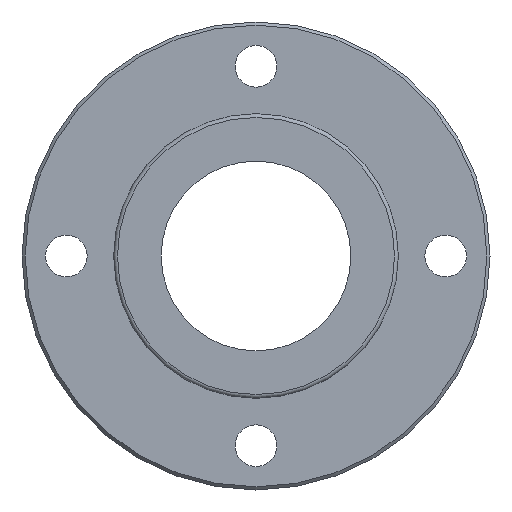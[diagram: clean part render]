
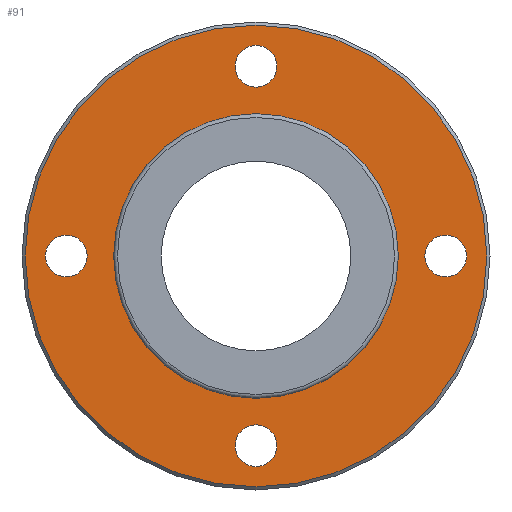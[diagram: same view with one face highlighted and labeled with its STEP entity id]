
A CAD part, left-side view. The second image highlights one B-rep face of the part: STEP entity #91.
In plain terms, the highlighted planar face has unit normal (-1, 0, 0).
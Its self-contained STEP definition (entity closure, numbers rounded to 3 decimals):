
#91=ADVANCED_FACE('',(#152,#153,#154,#155,#156,#157),#158,.T.);
#152=FACE_OUTER_BOUND('',#244,.T.);
#153=FACE_BOUND('',#245,.T.);
#154=FACE_BOUND('',#246,.T.);
#155=FACE_BOUND('',#247,.T.);
#156=FACE_BOUND('',#248,.T.);
#157=FACE_BOUND('',#249,.T.);
#158=PLANE('',#250);
#244=EDGE_LOOP('',(#368));
#245=EDGE_LOOP('',(#369));
#246=EDGE_LOOP('',(#370));
#247=EDGE_LOOP('',(#371));
#248=EDGE_LOOP('',(#372));
#249=EDGE_LOOP('',(#373));
#250=AXIS2_PLACEMENT_3D('',#374,#375,#376);
#368=ORIENTED_EDGE('',*,*,#450,.T.);
#369=ORIENTED_EDGE('',*,*,#447,.F.);
#370=ORIENTED_EDGE('',*,*,#442,.T.);
#371=ORIENTED_EDGE('',*,*,#444,.T.);
#372=ORIENTED_EDGE('',*,*,#462,.T.);
#373=ORIENTED_EDGE('',*,*,#452,.T.);
#374=CARTESIAN_POINT('',(-10.0,29.35,0.));
#375=DIRECTION('',(-1.0,0.0,0.));
#376=DIRECTION('',(0.,0.0,1.0));
#442=EDGE_CURVE('',#480,#480,#481,.T.);
#444=EDGE_CURVE('',#484,#484,#485,.T.);
#447=EDGE_CURVE('',#490,#490,#491,.T.);
#450=EDGE_CURVE('',#496,#496,#497,.T.);
#452=EDGE_CURVE('',#500,#500,#501,.T.);
#462=EDGE_CURVE('',#520,#520,#521,.T.);
#480=VERTEX_POINT('',#544);
#481=CIRCLE('',#545,3.3);
#484=VERTEX_POINT('',#548);
#485=CIRCLE('',#549,3.3);
#490=VERTEX_POINT('',#554);
#491=CIRCLE('',#555,22.2);
#496=VERTEX_POINT('',#560);
#497=CIRCLE('',#561,36.5);
#500=VERTEX_POINT('',#564);
#501=CIRCLE('',#565,3.3);
#520=VERTEX_POINT('',#584);
#521=CIRCLE('',#585,3.3);
#544=CARTESIAN_POINT('',(-10.0,-30.0,3.3));
#545=AXIS2_PLACEMENT_3D('',#614,#615,#616);
#548=CARTESIAN_POINT('',(-10.0,30.0,3.3));
#549=AXIS2_PLACEMENT_3D('',#620,#621,#622);
#554=CARTESIAN_POINT('',(-10.0,22.2,0.));
#555=AXIS2_PLACEMENT_3D('',#629,#630,#631);
#560=CARTESIAN_POINT('',(-10.0,36.5,0.));
#561=AXIS2_PLACEMENT_3D('',#638,#639,#640);
#564=CARTESIAN_POINT('',(-10.0,0.,-26.7));
#565=AXIS2_PLACEMENT_3D('',#644,#645,#646);
#584=CARTESIAN_POINT('',(-10.0,0.,33.3));
#585=AXIS2_PLACEMENT_3D('',#674,#675,#676);
#614=CARTESIAN_POINT('',(-10.0,-30.0,0.));
#615=DIRECTION('',(1.0,0.0,0.));
#616=DIRECTION('',(0.,0.0,-1.0));
#620=CARTESIAN_POINT('',(-10.0,30.0,0.));
#621=DIRECTION('',(1.0,0.0,0.));
#622=DIRECTION('',(0.,0.0,-1.0));
#629=CARTESIAN_POINT('',(-10.0,0.0,0.));
#630=DIRECTION('',(-1.0,0.0,0.));
#631=DIRECTION('',(0.0,1.0,0.0));
#638=CARTESIAN_POINT('',(-10.0,0.0,0.));
#639=DIRECTION('',(-1.0,0.0,0.));
#640=DIRECTION('',(0.0,1.0,0.0));
#644=CARTESIAN_POINT('',(-10.0,0.0,-30.0));
#645=DIRECTION('',(1.0,0.0,0.));
#646=DIRECTION('',(0.,0.0,-1.0));
#674=CARTESIAN_POINT('',(-10.0,0.0,30.0));
#675=DIRECTION('',(1.0,0.0,0.));
#676=DIRECTION('',(0.,0.0,-1.0));
